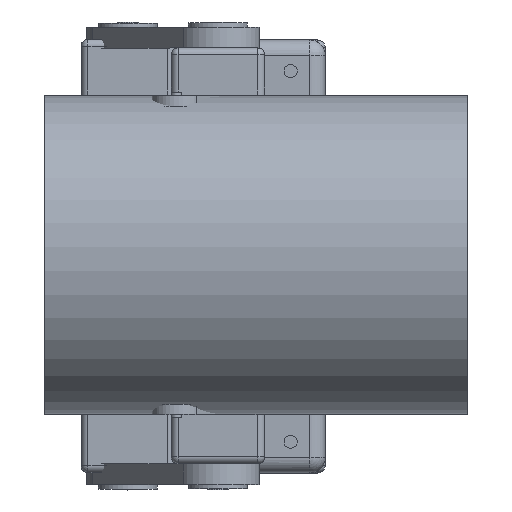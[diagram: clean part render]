
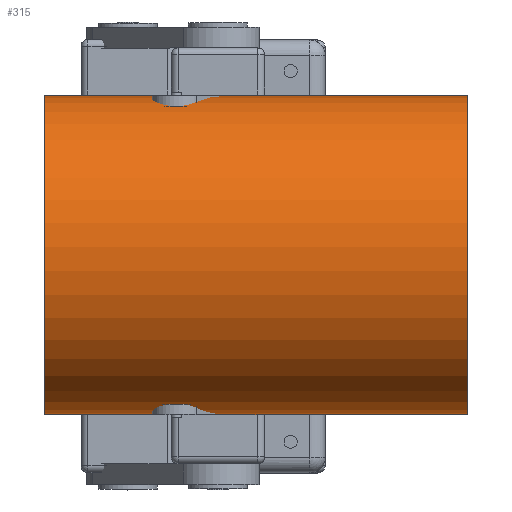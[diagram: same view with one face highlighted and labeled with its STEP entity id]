
A CAD part, top view. The second image highlights one B-rep face of the part: STEP entity #315.
In plain terms, the highlighted face is a extrusion surface.
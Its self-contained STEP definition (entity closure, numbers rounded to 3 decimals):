
#315 = ADVANCED_FACE('',(#316),#330,.F.);
#316 = FACE_BOUND('',#317,.F.);
#317 = EDGE_LOOP('',(#318,#356,#385,#408));
#318 = ORIENTED_EDGE('',*,*,#319,.T.);
#319 = EDGE_CURVE('',#320,#322,#324,.T.);
#320 = VERTEX_POINT('',#321);
#321 = CARTESIAN_POINT('',(-47.,46.,231.));
#322 = VERTEX_POINT('',#323);
#323 = CARTESIAN_POINT('',(75.,46.,231.));
#324 = SURFACE_CURVE('',#325,(#329,#344),.PCURVE_S1.);
#325 = LINE('',#326,#327);
#326 = CARTESIAN_POINT('',(-47.,46.,231.));
#327 = VECTOR('',#328,1.);
#328 = DIRECTION('',(1.,0.,0.));
#329 = PCURVE('',#330,#338);
#330 = SURFACE_OF_LINEAR_EXTRUSION('',#331,#336);
#331 = ELLIPSE('',#332,46.,43.);
#332 = AXIS2_PLACEMENT_3D('',#333,#334,#335);
#333 = CARTESIAN_POINT('',(-47.,0.,231.));
#334 = DIRECTION('',(1.,0.,0.));
#335 = DIRECTION('',(-0.,1.,0.));
#336 = VECTOR('',#337,1.);
#337 = DIRECTION('',(-1.,-0.,-0.));
#338 = DEFINITIONAL_REPRESENTATION('',(#339),#343);
#339 = LINE('',#340,#341);
#340 = CARTESIAN_POINT('',(0.,0.));
#341 = VECTOR('',#342,1.);
#342 = DIRECTION('',(0.,-1.));
#343 = ( GEOMETRIC_REPRESENTATION_CONTEXT(2) 
PARAMETRIC_REPRESENTATION_CONTEXT() REPRESENTATION_CONTEXT('2D SPACE',''
  ) );
#344 = PCURVE('',#345,#350);
#345 = PLANE('',#346);
#346 = AXIS2_PLACEMENT_3D('',#347,#348,#349);
#347 = CARTESIAN_POINT('',(-47.,-46.,231.));
#348 = DIRECTION('',(0.,0.,1.));
#349 = DIRECTION('',(0.,1.,0.));
#350 = DEFINITIONAL_REPRESENTATION('',(#351),#355);
#351 = LINE('',#352,#353);
#352 = CARTESIAN_POINT('',(92.,0.));
#353 = VECTOR('',#354,1.);
#354 = DIRECTION('',(0.,-1.));
#355 = ( GEOMETRIC_REPRESENTATION_CONTEXT(2) 
PARAMETRIC_REPRESENTATION_CONTEXT() REPRESENTATION_CONTEXT('2D SPACE',''
  ) );
#356 = ORIENTED_EDGE('',*,*,#357,.T.);
#357 = EDGE_CURVE('',#322,#358,#360,.T.);
#358 = VERTEX_POINT('',#359);
#359 = CARTESIAN_POINT('',(75.,-46.,231.));
#360 = SURFACE_CURVE('',#361,(#366,#373),.PCURVE_S1.);
#361 = ELLIPSE('',#362,46.,43.);
#362 = AXIS2_PLACEMENT_3D('',#363,#364,#365);
#363 = CARTESIAN_POINT('',(75.,0.,231.));
#364 = DIRECTION('',(1.,0.,0.));
#365 = DIRECTION('',(-0.,1.,0.));
#366 = PCURVE('',#330,#367);
#367 = DEFINITIONAL_REPRESENTATION('',(#368),#372);
#368 = LINE('',#369,#370);
#369 = CARTESIAN_POINT('',(0.,-122.));
#370 = VECTOR('',#371,1.);
#371 = DIRECTION('',(1.,0.));
#372 = ( GEOMETRIC_REPRESENTATION_CONTEXT(2) 
PARAMETRIC_REPRESENTATION_CONTEXT() REPRESENTATION_CONTEXT('2D SPACE',''
  ) );
#373 = PCURVE('',#374,#379);
#374 = PLANE('',#375);
#375 = AXIS2_PLACEMENT_3D('',#376,#377,#378);
#376 = CARTESIAN_POINT('',(75.,0.,245.822));
#377 = DIRECTION('',(1.,0.,0.));
#378 = DIRECTION('',(-0.,0.,1.));
#379 = DEFINITIONAL_REPRESENTATION('',(#380),#384);
#380 = ELLIPSE('',#381,46.,43.);
#381 = AXIS2_PLACEMENT_2D('',#382,#383);
#382 = CARTESIAN_POINT('',(-14.822,0.));
#383 = DIRECTION('',(0.,-1.));
#384 = ( GEOMETRIC_REPRESENTATION_CONTEXT(2) 
PARAMETRIC_REPRESENTATION_CONTEXT() REPRESENTATION_CONTEXT('2D SPACE',''
  ) );
#385 = ORIENTED_EDGE('',*,*,#386,.F.);
#386 = EDGE_CURVE('',#387,#358,#389,.T.);
#387 = VERTEX_POINT('',#388);
#388 = CARTESIAN_POINT('',(-47.,-46.,231.));
#389 = SURFACE_CURVE('',#390,(#394,#401),.PCURVE_S1.);
#390 = LINE('',#391,#392);
#391 = CARTESIAN_POINT('',(-47.,-46.,231.));
#392 = VECTOR('',#393,1.);
#393 = DIRECTION('',(1.,0.,0.));
#394 = PCURVE('',#330,#395);
#395 = DEFINITIONAL_REPRESENTATION('',(#396),#400);
#396 = LINE('',#397,#398);
#397 = CARTESIAN_POINT('',(3.142,0.));
#398 = VECTOR('',#399,1.);
#399 = DIRECTION('',(0.,-1.));
#400 = ( GEOMETRIC_REPRESENTATION_CONTEXT(2) 
PARAMETRIC_REPRESENTATION_CONTEXT() REPRESENTATION_CONTEXT('2D SPACE',''
  ) );
#401 = PCURVE('',#345,#402);
#402 = DEFINITIONAL_REPRESENTATION('',(#403),#407);
#403 = LINE('',#404,#405);
#404 = CARTESIAN_POINT('',(0.,0.));
#405 = VECTOR('',#406,1.);
#406 = DIRECTION('',(0.,-1.));
#407 = ( GEOMETRIC_REPRESENTATION_CONTEXT(2) 
PARAMETRIC_REPRESENTATION_CONTEXT() REPRESENTATION_CONTEXT('2D SPACE',''
  ) );
#408 = ORIENTED_EDGE('',*,*,#409,.F.);
#409 = EDGE_CURVE('',#320,#387,#410,.T.);
#410 = SURFACE_CURVE('',#411,(#416,#423),.PCURVE_S1.);
#411 = ELLIPSE('',#412,46.,43.);
#412 = AXIS2_PLACEMENT_3D('',#413,#414,#415);
#413 = CARTESIAN_POINT('',(-47.,0.,231.));
#414 = DIRECTION('',(1.,0.,0.));
#415 = DIRECTION('',(-0.,1.,0.));
#416 = PCURVE('',#330,#417);
#417 = DEFINITIONAL_REPRESENTATION('',(#418),#422);
#418 = LINE('',#419,#420);
#419 = CARTESIAN_POINT('',(0.,0.));
#420 = VECTOR('',#421,1.);
#421 = DIRECTION('',(1.,0.));
#422 = ( GEOMETRIC_REPRESENTATION_CONTEXT(2) 
PARAMETRIC_REPRESENTATION_CONTEXT() REPRESENTATION_CONTEXT('2D SPACE',''
  ) );
#423 = PCURVE('',#424,#429);
#424 = PLANE('',#425);
#425 = AXIS2_PLACEMENT_3D('',#426,#427,#428);
#426 = CARTESIAN_POINT('',(-47.,0.,245.822));
#427 = DIRECTION('',(1.,0.,0.));
#428 = DIRECTION('',(-0.,0.,1.));
#429 = DEFINITIONAL_REPRESENTATION('',(#430),#434);
#430 = ELLIPSE('',#431,46.,43.);
#431 = AXIS2_PLACEMENT_2D('',#432,#433);
#432 = CARTESIAN_POINT('',(-14.822,0.));
#433 = DIRECTION('',(0.,-1.));
#434 = ( GEOMETRIC_REPRESENTATION_CONTEXT(2) 
PARAMETRIC_REPRESENTATION_CONTEXT() REPRESENTATION_CONTEXT('2D SPACE',''
  ) );
